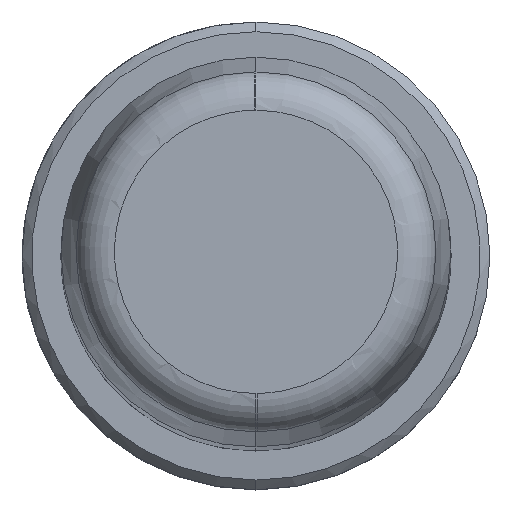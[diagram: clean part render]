
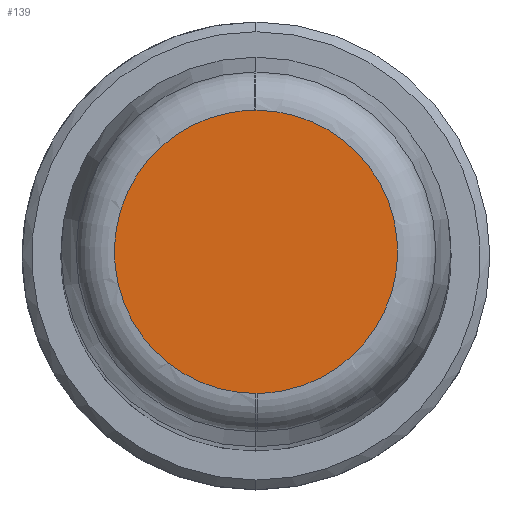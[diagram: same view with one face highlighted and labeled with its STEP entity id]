
A CAD part, top view. The second image highlights one B-rep face of the part: STEP entity #139.
In plain terms, the highlighted planar face has unit normal (0, 0, 1).
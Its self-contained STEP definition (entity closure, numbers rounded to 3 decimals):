
#52=CARTESIAN_POINT('Axis2P3D Location',(0.,0.,125.)) ;
#58=CARTESIAN_POINT('Control Point',(0.057,-7.264,125.)) ;
#59=CARTESIAN_POINT('Control Point',(0.045,-7.264,125.)) ;
#60=CARTESIAN_POINT('Control Point',(0.034,-7.264,125.)) ;
#61=CARTESIAN_POINT('Control Point',(0.023,-7.264,125.)) ;
#62=CARTESIAN_POINT('Control Point',(0.011,-7.264,125.)) ;
#63=CARTESIAN_POINT('Control Point',(0.,-7.264,125.)) ;
#64=CARTESIAN_POINT('Vertex',(0.057,-7.264,125.)) ;
#66=CARTESIAN_POINT('Vertex',(0.,-7.264,125.)) ;
#70=CARTESIAN_POINT('Control Point',(0.,7.264,125.)) ;
#71=CARTESIAN_POINT('Control Point',(0.66,7.264,125.)) ;
#72=CARTESIAN_POINT('Control Point',(1.32,7.189,125.)) ;
#73=CARTESIAN_POINT('Control Point',(1.969,7.039,125.)) ;
#74=CARTESIAN_POINT('Control Point',(3.221,6.594,125.)) ;
#75=CARTESIAN_POINT('Control Point',(4.342,5.88,125.)) ;
#76=CARTESIAN_POINT('Control Point',(4.859,5.46,125.)) ;
#77=CARTESIAN_POINT('Control Point',(5.789,4.511,125.)) ;
#78=CARTESIAN_POINT('Control Point',(6.482,3.377,125.)) ;
#79=CARTESIAN_POINT('Control Point',(6.763,2.773,125.)) ;
#80=CARTESIAN_POINT('Control Point',(7.181,1.512,125.)) ;
#81=CARTESIAN_POINT('Control Point',(7.307,0.189,125.)) ;
#82=CARTESIAN_POINT('Control Point',(7.294,-0.477,125.)) ;
#83=CARTESIAN_POINT('Control Point',(7.116,-1.794,125.)) ;
#84=CARTESIAN_POINT('Control Point',(6.648,-3.037,125.)) ;
#85=CARTESIAN_POINT('Control Point',(6.344,-3.63,125.)) ;
#86=CARTESIAN_POINT('Control Point',(5.607,-4.735,125.)) ;
#87=CARTESIAN_POINT('Control Point',(4.64,-5.647,125.)) ;
#88=CARTESIAN_POINT('Control Point',(4.107,-6.046,125.)) ;
#89=CARTESIAN_POINT('Control Point',(3.019,-6.681,125.)) ;
#90=CARTESIAN_POINT('Control Point',(1.822,-7.069,125.)) ;
#91=CARTESIAN_POINT('Control Point',(1.239,-7.194,125.)) ;
#92=CARTESIAN_POINT('Control Point',(0.648,-7.259,125.)) ;
#93=CARTESIAN_POINT('Control Point',(0.057,-7.264,125.)) ;
#94=CARTESIAN_POINT('Vertex',(0.,7.264,125.)) ;
#98=CARTESIAN_POINT('Control Point',(-0.057,7.264,125.)) ;
#99=CARTESIAN_POINT('Control Point',(-0.045,7.264,125.)) ;
#100=CARTESIAN_POINT('Control Point',(-0.034,7.264,125.)) ;
#101=CARTESIAN_POINT('Control Point',(-0.023,7.264,125.)) ;
#102=CARTESIAN_POINT('Control Point',(-0.011,7.264,125.)) ;
#103=CARTESIAN_POINT('Control Point',(0.,7.264,125.)) ;
#104=CARTESIAN_POINT('Vertex',(-0.057,7.264,125.)) ;
#108=CARTESIAN_POINT('Control Point',(0.,-7.264,125.)) ;
#109=CARTESIAN_POINT('Control Point',(-0.66,-7.264,125.)) ;
#110=CARTESIAN_POINT('Control Point',(-1.32,-7.189,125.)) ;
#111=CARTESIAN_POINT('Control Point',(-1.969,-7.039,125.)) ;
#112=CARTESIAN_POINT('Control Point',(-3.221,-6.594,125.)) ;
#113=CARTESIAN_POINT('Control Point',(-4.342,-5.88,125.)) ;
#114=CARTESIAN_POINT('Control Point',(-4.859,-5.46,125.)) ;
#115=CARTESIAN_POINT('Control Point',(-5.789,-4.511,125.)) ;
#116=CARTESIAN_POINT('Control Point',(-6.482,-3.377,125.)) ;
#117=CARTESIAN_POINT('Control Point',(-6.763,-2.773,125.)) ;
#118=CARTESIAN_POINT('Control Point',(-7.181,-1.512,125.)) ;
#119=CARTESIAN_POINT('Control Point',(-7.307,-0.189,125.)) ;
#120=CARTESIAN_POINT('Control Point',(-7.294,0.477,125.)) ;
#121=CARTESIAN_POINT('Control Point',(-7.116,1.794,125.)) ;
#122=CARTESIAN_POINT('Control Point',(-6.648,3.037,125.)) ;
#123=CARTESIAN_POINT('Control Point',(-6.344,3.63,125.)) ;
#124=CARTESIAN_POINT('Control Point',(-5.607,4.735,125.)) ;
#125=CARTESIAN_POINT('Control Point',(-4.64,5.647,125.)) ;
#126=CARTESIAN_POINT('Control Point',(-4.107,6.046,125.)) ;
#127=CARTESIAN_POINT('Control Point',(-3.019,6.681,125.)) ;
#128=CARTESIAN_POINT('Control Point',(-1.822,7.069,125.)) ;
#129=CARTESIAN_POINT('Control Point',(-1.239,7.194,125.)) ;
#130=CARTESIAN_POINT('Control Point',(-0.648,7.259,125.)) ;
#131=CARTESIAN_POINT('Control Point',(-0.057,7.264,125.)) ;
#53=DIRECTION('Axis2P3D Direction',(0.,0.,1.)) ;
#54=DIRECTION('Axis2P3D XDirection',(0.,-1.,0.)) ;
#55=AXIS2_PLACEMENT_3D('Plane Axis2P3D',#52,#53,#54) ;
#134=ORIENTED_EDGE('',*,*,#68,.F.) ;
#135=ORIENTED_EDGE('',*,*,#96,.F.) ;
#136=ORIENTED_EDGE('',*,*,#106,.F.) ;
#137=ORIENTED_EDGE('',*,*,#132,.F.) ;
#139=ADVANCED_FACE('MANIFOLD_SOLID_BREP #450',(#138),#56,.T.) ;
#57=B_SPLINE_CURVE_WITH_KNOTS('',5,(#58,#59,#60,#61,#62,#63),.UNSPECIFIED.,.F.,.U.,(6,6),(32.192,32.272),.UNSPECIFIED.) ;
#69=B_SPLINE_CURVE_WITH_KNOTS('',5,(#70,#71,#72,#73,#74,#75,#76,#77,#78,#79,#80,#81,#82,#83,#84,#85,#86,#87,#88,#89,#90,#91,#92,#93),.UNSPECIFIED.,.F.,.U.,(6,3,3,3,3,3,3,6),(0.,4.668,9.336,14.004,18.672,23.341,28.009,32.192),.UNSPECIFIED.) ;
#97=B_SPLINE_CURVE_WITH_KNOTS('',5,(#98,#99,#100,#101,#102,#103),.UNSPECIFIED.,.F.,.U.,(6,6),(32.192,32.272),.UNSPECIFIED.) ;
#107=B_SPLINE_CURVE_WITH_KNOTS('',5,(#108,#109,#110,#111,#112,#113,#114,#115,#116,#117,#118,#119,#120,#121,#122,#123,#124,#125,#126,#127,#128,#129,#130,#131),.UNSPECIFIED.,.F.,.U.,(6,3,3,3,3,3,3,6),(0.,4.668,9.336,14.004,18.672,23.341,28.009,32.192),.UNSPECIFIED.) ;
#68=EDGE_CURVE('',#65,#67,#57,.T.) ;
#96=EDGE_CURVE('',#95,#65,#69,.T.) ;
#106=EDGE_CURVE('',#105,#95,#97,.T.) ;
#132=EDGE_CURVE('',#67,#105,#107,.T.) ;
#133=EDGE_LOOP('',(#134,#135,#136,#137)) ;
#138=FACE_OUTER_BOUND('',#133,.T.) ;
#56=PLANE('Plane',#55) ;
#65=VERTEX_POINT('',#64) ;
#67=VERTEX_POINT('',#66) ;
#95=VERTEX_POINT('',#94) ;
#105=VERTEX_POINT('',#104) ;
